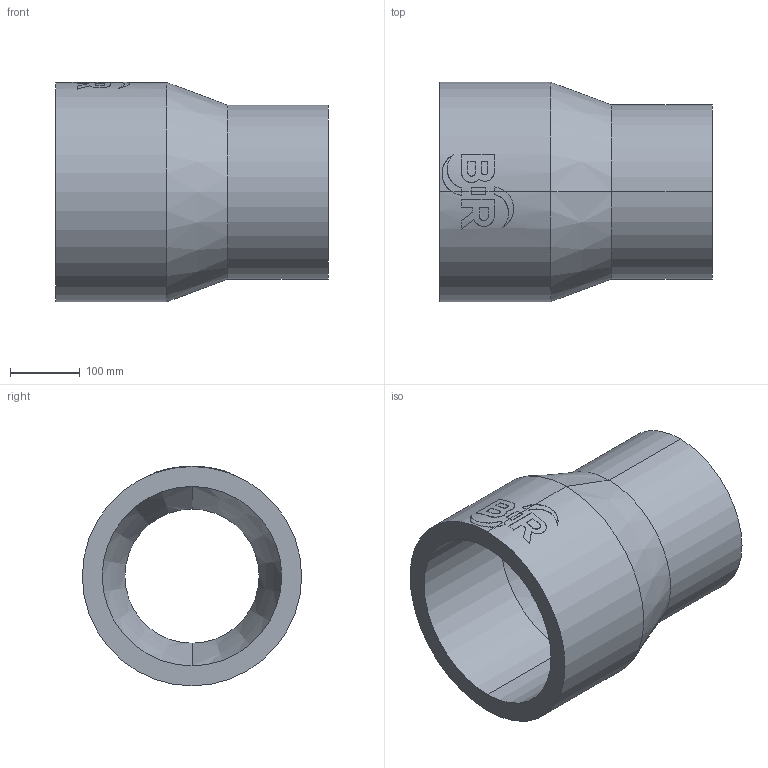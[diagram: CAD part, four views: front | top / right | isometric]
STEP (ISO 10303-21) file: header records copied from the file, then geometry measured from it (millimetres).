
FILE_DESCRIPTION (( 'STEP AP214' ), '1' );
FILE_NAME ('2323232115.STEP', '2018-07-20T11:37:34', ( '' ), ( '' ), 'SwSTEP 2.0', 'SolidWorks 2017', '' );
FILE_SCHEMA (( 'AUTOMOTIVE_DESIGN' ));
Length unit declared in the file: millimetre
Products named in the file (1): 2323232115
Bounding box: 392 x 315 x 315.46 mm (x, y, z)
Volume: 9107122.5 mm3; surface area: 682787.8 mm2
Topology: 1 solids, 1 shells, 63 faces, 160 edges, 104 vertices
Faces by surface type: cylinder 31, plane 28, cone 4
Entity records: 3418 total; most frequent: CARTESIAN_POINT 1209, ORIENTED_EDGE 320, DIRECTION 296, EDGE_CURVE 160, AXIS2_PLACEMENT_3D 112, VERTEX_POINT 104, LINE 72, VECTOR 72
